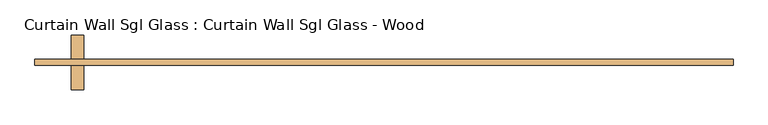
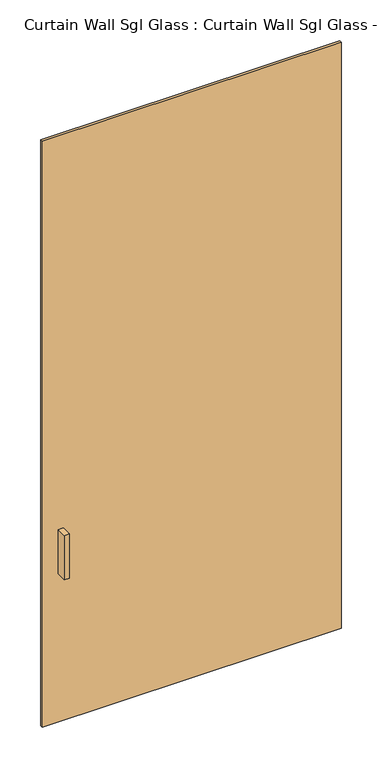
"""IFC4 building model written with IfcOpenShell, lengths in millimetres: door geometry, Curtain Wall Sgl Glass : Curtain Wall Sgl Glass - Wood."""

from ifc_helpers import new_model, si_unit, frame, origin, origin_with_axes, place, context, project, spatial, polyline, outline, extrude, source, transform, mapped, element, save


def curtain_wall_sgl_glass_curtain_wall_sgl_glass_wood_e1d2974b(model_context):
    return source(origin(), model_context, "Body", "SweptSolid", [
        extrude(outline(polyline([(-625.475, 12.7), (-625.475, -38.1), (-650.875, -38.1), (-650.875, 12.7), (-625.475, 12.7)])), frame((0.0, 0.0, 762.0), z_axis=(0.0, 0.0, 1.0), x_axis=(1.0, 0.0, 0.0)), (0.0, 0.0, 1.0), 228.6),
        extrude(outline(polyline([(-650.875, -101.6), (-650.875, -50.8), (-625.475, -50.8), (-625.475, -101.6), (-650.875, -101.6)])), frame((0.0, 0.0, 762.0), z_axis=(0.0, 0.0, 1.0), x_axis=(1.0, 0.0, 0.0)), (0.0, 0.0, 1.0), 228.6),
        extrude(outline(polyline([(727.075, -50.8), (-727.075, -50.8), (-727.075, -38.1), (727.075, -38.1), (727.075, -50.8)])), origin_with_axes(), (0.0, 0.0, 1.0), 3016.25),
    ])


if __name__ == "__main__":
    model = new_model("IFC4")
    model_context = context("Model", 3, world=origin())
    ifc_project = project(units=[si_unit("LENGTHUNIT", "METRE", prefix="MILLI")], contexts=[model_context])
    site = spatial("IfcSite", under=ifc_project)
    building = spatial("IfcBuilding", under=site)
    placement = place(None, origin())
    curtain_wall_sgl_glass_curtain_wall_sgl_glass_wood_shape = curtain_wall_sgl_glass_curtain_wall_sgl_glass_wood_e1d2974b(model_context)
    element("IfcDoor", 1, ObjectType="Curtain Wall Sgl Glass : Curtain Wall Sgl Glass - Wood", at=placement, inside=building, context=model_context, shape_type="MappedRepresentation", body=[
        mapped(curtain_wall_sgl_glass_curtain_wall_sgl_glass_wood_shape, transform((0.0, 0.0, 0.0), x_axis=(1.0, 0.0, 0.0), y_axis=(0.0, 1.0, 0.0), z_axis=(0.0, 0.0, 1.0))),
    ])
    save(model, "model.ifc")
